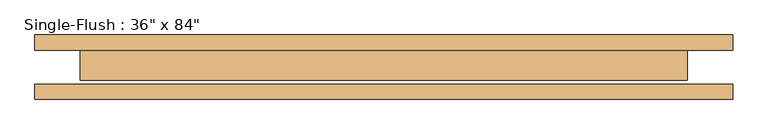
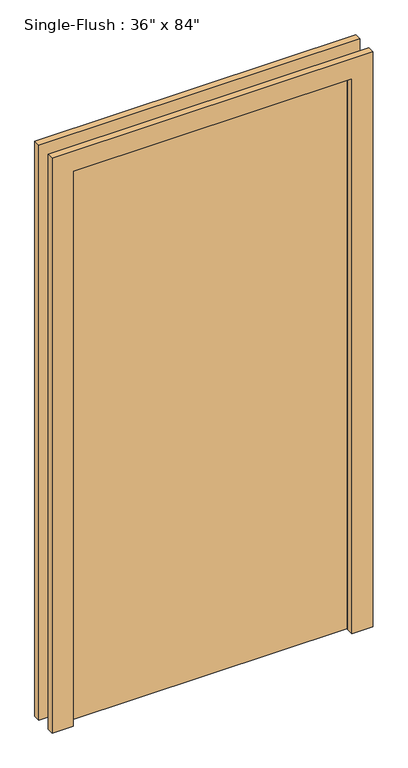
"""IFC4 building model written with IfcOpenShell, lengths in millimetres: door geometry."""

from ifc_helpers import new_model, si_unit, frame, origin, origin_with_axes, place, context, project, spatial, polyline, outline, extrude, source, transform, mapped, element, save


def door_f56e31f7(model_context):
    return source(origin(), model_context, "Body", "SweptSolid", [
        extrude(outline(polyline([(2209.8, -584.2), (0.0, -584.2), (0.0, -508.0), (2133.6, -508.0), (2133.6, 508.0), (0.0, 508.0), (0.0, 584.2), (2209.8, 584.2), (2209.8, -584.2)])), frame((0.0, 28.575, 0.0), z_axis=(0.0, 1.0, 0.0), x_axis=(0.0, 0.0, 1.0)), (0.0, 0.0, 1.0), 25.4),
        extrude(outline(polyline([(2209.8, 584.2), (2209.8, -584.2), (0.0, -584.2), (0.0, -508.0), (2133.6, -508.0), (2133.6, 508.0), (0.0, 508.0), (0.0, 584.2), (2209.8, 584.2)])), frame((0.0, -53.975, 0.0), z_axis=(0.0, 1.0, 0.0), x_axis=(0.0, 0.0, 1.0)), (0.0, 0.0, 1.0), 25.4),
        extrude(outline(polyline([(508.0, -22.225), (-508.0, -22.225), (-508.0, 28.575), (508.0, 28.575), (508.0, -22.225)])), origin_with_axes(), (0.0, 0.0, 1.0), 2133.6),
    ])


if __name__ == "__main__":
    model = new_model("IFC4")
    model_context = context("Model", 3, world=origin())
    ifc_project = project(units=[si_unit("LENGTHUNIT", "METRE", prefix="MILLI")], contexts=[model_context])
    site = spatial("IfcSite", under=ifc_project)
    building = spatial("IfcBuilding", under=site)
    placement = place(None, origin())
    door_shape = door_f56e31f7(model_context)
    element("IfcDoor", 1, ObjectType="Single-Flush : 36\" x 84\"", at=placement, inside=building, context=model_context, shape_type="MappedRepresentation", body=[
        mapped(door_shape, transform((0.0, 0.0, 0.0), x_axis=(1.0, 0.0, 0.0), y_axis=(0.0, 1.0, 0.0), z_axis=(0.0, 0.0, 1.0))),
    ])
    save(model, "model.ifc")
